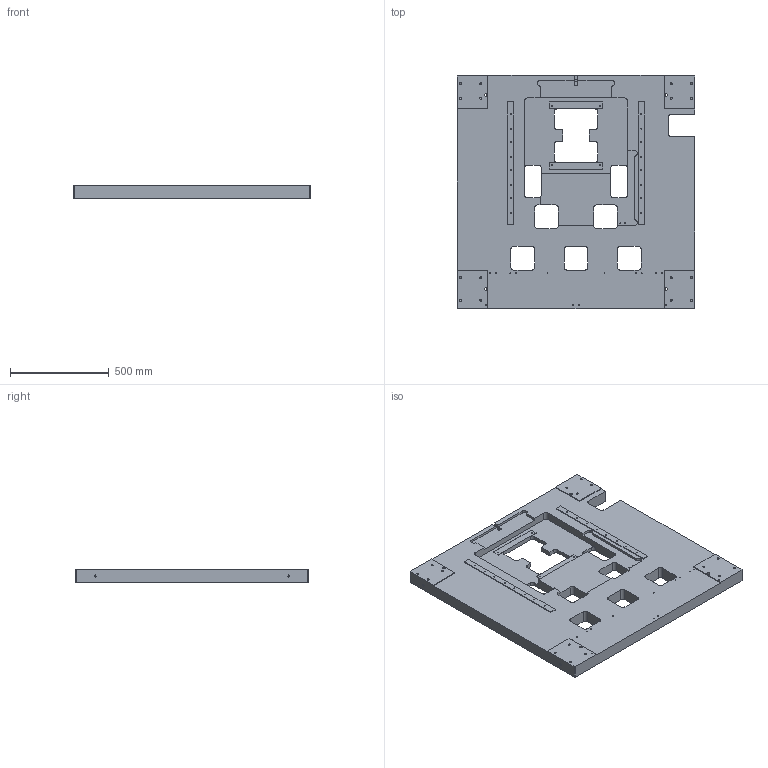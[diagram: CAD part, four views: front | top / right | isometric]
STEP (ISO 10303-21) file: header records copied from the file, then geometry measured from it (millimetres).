
FILE_DESCRIPTION(('TFLEX Exchange Step'),'2;1');
FILE_NAME('16 ГЮЭФ.741428.050 ПЛИТА (коррект).stp', '2024-10-21T10:53:42+03:00',('K307-8'),('Unknown organisation'),'TFLEX Exchange 2020.0','T-FLEX CAD','Unknown authorisation');
FILE_SCHEMA( ('AUTOMOTIVE_DESIGN { 1 0 10303 214 1 1 1 1 }') );
Length unit declared in the file: millimetre
Products named in the file (74): 0; 3D Узел_1; 3D Узел_2; 3D Узел_3; 3D Узел_4; 3D Узел_5; 3D Узел_6; 3D Узел_7; 3D Узел_8; 3D Узел_9; 3D Узел_10; 3D Узел_11; 3D Узел_12; 3D Узел_13; 3D Узел_14; 3D Узел_15; 3D Узел_16; 3D Узел_17; 3D Узел_18; 3D Узел_19; 3D Узел_20; 3D Узел_21; 3D Узел_22; 3D Узел_23; 3D Узел_24; 3D Узел_25; 3D Узел_26; 3D Узел_27; 3D Узел_28; 3D Узел_29; 3D Узел_30; 3D Узел_31; 3D Узел_32; 3D Узел_33; 3D Узел_34; 3D Узел_35; 3D Узел_36; 3D Узел_37; 3D Узел_38; 3D Узел_39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
Assembly tree (73 placements, depth 3):
  16 ГЮЭФ.741428.050 ПЛИТА (коррект)
    0
    0
      3D Узел_1
      3D Узел_2
      3D Узел_3
      3D Узел_4
      3D Узел_5
      3D Узел_6
      3D Узел_7
      3D Узел_8
      3D Узел_9
      3D Узел_10
      3D Узел_11
      3D Узел_12
      3D Узел_13
      3D Узел_14
      3D Узел_15
      3D Узел_16
      3D Узел_17
      3D Узел_18
      3D Узел_19
      3D Узел_20
      3D Узел_21
      3D Узел_22
      3D Узел_23
      3D Узел_24
      3D Узел_25
      3D Узел_26
      3D Узел_27
      3D Узел_28
      3D Узел_29
      3D Узел_30
      3D Узел_31
      3D Узел_32
      3D Узел_33
      3D Узел_34
      3D Узел_35
      3D Узел_36
      3D Узел_37
      3D Узел_38
      3D Узел_39
      3D Узел_40
      3D Узел_41
      3D Узел_42
      3D Узел_43
      3D Узел_44
      3D Узел_45
      3D Узел_46
      3D Узел_47
      3D Узел_48
      3D Узел_49
      3D Узел_50
      3D Узел_51
      3D Узел_52
      3D Узел_53
      3D Узел_54
      3D Узел_55
      3D Узел_56
      3D Узел_57
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Bounding box: 1200 x 1180 x 70 mm (x, y, z)
Volume: 67326569.6 mm3; surface area: 3215106.4 mm2
Topology: 1 solids, 1 shells, 321 faces, 880 edges, 636 vertices
Faces by surface type: plane 136, cylinder 123, cone 62
Full cylindrical faces by diameter (mm): 3.242 x12, 4.917 x30, 10.106 x20, 13.835 x4
Entity records: 11846 total; most frequent: DIRECTION 2001, CARTESIAN_POINT 1922, ORIENTED_EDGE 1636, EDGE_CURVE 818, AXIS2_PLACEMENT_3D 715, VECTOR 571, LINE 571, VERTEX_POINT 565
